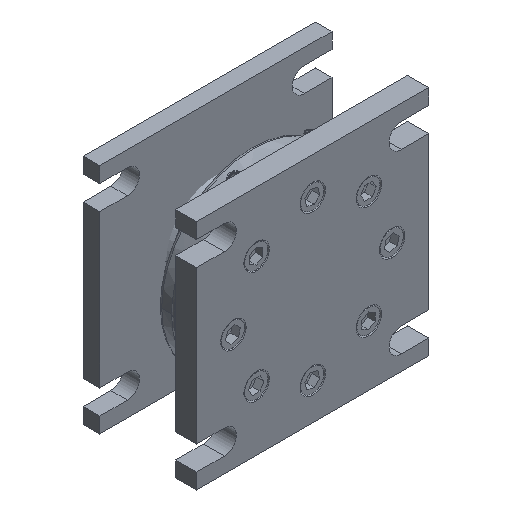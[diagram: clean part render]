
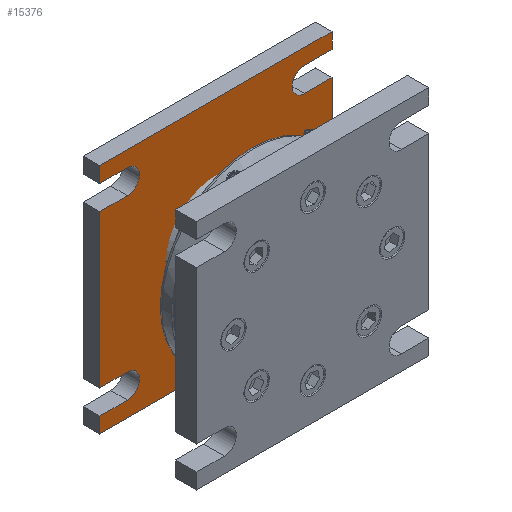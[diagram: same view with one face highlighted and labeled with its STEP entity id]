
A CAD part, isometric view. The second image highlights one B-rep face of the part: STEP entity #15376.
In plain terms, the highlighted planar face has unit normal (0, -1, 0).
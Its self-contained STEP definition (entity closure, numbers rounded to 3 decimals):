
#14863=CARTESIAN_POINT('',(0.,68.6,0.));
#14864=DIRECTION('',(0.,-1.,0.));
#14865=DIRECTION('',(1.,0.,0.));
#14866=AXIS2_PLACEMENT_3D('',#14863,#14864,#14865);
#14868=CARTESIAN_POINT('',(0.,68.6,0.));
#14869=DIRECTION('',(0.,-1.,0.));
#14870=DIRECTION('',(-1.,0.,0.));
#14871=AXIS2_PLACEMENT_3D('',#14868,#14869,#14870);
#14873=DIRECTION('',(1.,0.,0.));
#14874=VECTOR('',#14873,25.);
#14875=CARTESIAN_POINT('',(-105.,68.6,-91.));
#14876=LINE('',#14875,#14874);
#14877=DIRECTION('',(1.,0.,0.));
#14878=VECTOR('',#14877,25.);
#14879=CARTESIAN_POINT('',(-105.,68.6,-69.));
#14880=LINE('',#14879,#14878);
#14881=DIRECTION('',(0.,0.,1.));
#14882=VECTOR('',#14881,138.);
#14883=CARTESIAN_POINT('',(-105.,68.6,-69.));
#14884=LINE('',#14883,#14882);
#14885=DIRECTION('',(1.,0.,0.));
#14886=VECTOR('',#14885,25.);
#14887=CARTESIAN_POINT('',(-105.,68.6,69.));
#14888=LINE('',#14887,#14886);
#14889=DIRECTION('',(1.,0.,0.));
#14890=VECTOR('',#14889,25.);
#14891=CARTESIAN_POINT('',(-105.,68.6,91.));
#14892=LINE('',#14891,#14890);
#14893=DIRECTION('',(0.,0.,1.));
#14894=VECTOR('',#14893,14.);
#14895=CARTESIAN_POINT('',(-105.,68.6,91.));
#14896=LINE('',#14895,#14894);
#14897=DIRECTION('',(1.,0.,0.));
#14898=VECTOR('',#14897,210.);
#14899=CARTESIAN_POINT('',(-105.,68.6,105.));
#14900=LINE('',#14899,#14898);
#14901=DIRECTION('',(0.,0.,-1.));
#14902=VECTOR('',#14901,14.);
#14903=CARTESIAN_POINT('',(105.,68.6,105.));
#14904=LINE('',#14903,#14902);
#14905=DIRECTION('',(-1.,0.,0.));
#14906=VECTOR('',#14905,25.);
#14907=CARTESIAN_POINT('',(105.,68.6,91.));
#14908=LINE('',#14907,#14906);
#14909=DIRECTION('',(-1.,0.,0.));
#14910=VECTOR('',#14909,25.);
#14911=CARTESIAN_POINT('',(105.,68.6,69.));
#14912=LINE('',#14911,#14910);
#14913=DIRECTION('',(0.,0.,-1.));
#14914=VECTOR('',#14913,138.);
#14915=CARTESIAN_POINT('',(105.,68.6,69.));
#14916=LINE('',#14915,#14914);
#14917=DIRECTION('',(-1.,0.,0.));
#14918=VECTOR('',#14917,25.);
#14919=CARTESIAN_POINT('',(105.,68.6,-69.));
#14920=LINE('',#14919,#14918);
#14921=DIRECTION('',(-1.,0.,0.));
#14922=VECTOR('',#14921,25.);
#14923=CARTESIAN_POINT('',(105.,68.6,-91.));
#14924=LINE('',#14923,#14922);
#14925=DIRECTION('',(0.,0.,-1.));
#14926=VECTOR('',#14925,14.);
#14927=CARTESIAN_POINT('',(105.,68.6,-91.));
#14928=LINE('',#14927,#14926);
#14929=DIRECTION('',(-1.,0.,0.));
#14930=VECTOR('',#14929,210.);
#14931=CARTESIAN_POINT('',(105.,68.6,-105.));
#14932=LINE('',#14931,#14930);
#14933=DIRECTION('',(0.,0.,1.));
#14934=VECTOR('',#14933,14.);
#14935=CARTESIAN_POINT('',(-105.,68.6,-105.));
#14936=LINE('',#14935,#14934);
#15064=CARTESIAN_POINT('',(80.,68.6,-80.));
#15065=DIRECTION('',(0.,1.,0.));
#15066=DIRECTION('',(0.,0.,-1.));
#15067=AXIS2_PLACEMENT_3D('',#15064,#15065,#15066);
#15082=CARTESIAN_POINT('',(80.,68.6,80.));
#15083=DIRECTION('',(0.,1.,0.));
#15084=DIRECTION('',(0.,0.,-1.));
#15085=AXIS2_PLACEMENT_3D('',#15082,#15083,#15084);
#15095=CARTESIAN_POINT('',(-80.,68.6,80.));
#15096=DIRECTION('',(0.,1.,0.));
#15097=DIRECTION('',(0.,0.,1.));
#15098=AXIS2_PLACEMENT_3D('',#15095,#15096,#15097);
#15113=CARTESIAN_POINT('',(-80.,68.6,-80.));
#15114=DIRECTION('',(0.,1.,0.));
#15115=DIRECTION('',(0.,0.,1.));
#15116=AXIS2_PLACEMENT_3D('',#15113,#15114,#15115);
#15215=CARTESIAN_POINT('',(-105.,68.6,105.));
#15216=CARTESIAN_POINT('',(105.,68.6,105.));
#15217=VERTEX_POINT('',#15215);
#15218=VERTEX_POINT('',#15216);
#15219=CARTESIAN_POINT('',(105.,68.6,-105.));
#15220=CARTESIAN_POINT('',(-105.,68.6,-105.));
#15221=VERTEX_POINT('',#15219);
#15222=VERTEX_POINT('',#15220);
#15231=CARTESIAN_POINT('',(17.5,68.6,0.));
#15232=CARTESIAN_POINT('',(-17.5,68.6,0.));
#15233=VERTEX_POINT('',#15231);
#15234=VERTEX_POINT('',#15232);
#15235=CARTESIAN_POINT('',(-105.,68.6,-91.));
#15236=CARTESIAN_POINT('',(-80.,68.6,-91.));
#15237=VERTEX_POINT('',#15235);
#15238=VERTEX_POINT('',#15236);
#15239=CARTESIAN_POINT('',(-105.,68.6,-69.));
#15240=CARTESIAN_POINT('',(-80.,68.6,-69.));
#15241=VERTEX_POINT('',#15239);
#15242=VERTEX_POINT('',#15240);
#15243=CARTESIAN_POINT('',(105.,68.6,-69.));
#15244=CARTESIAN_POINT('',(80.,68.6,-69.));
#15245=VERTEX_POINT('',#15243);
#15246=VERTEX_POINT('',#15244);
#15247=CARTESIAN_POINT('',(105.,68.6,-91.));
#15248=CARTESIAN_POINT('',(80.,68.6,-91.));
#15249=VERTEX_POINT('',#15247);
#15250=VERTEX_POINT('',#15248);
#15251=CARTESIAN_POINT('',(105.,68.6,91.));
#15252=CARTESIAN_POINT('',(80.,68.6,91.));
#15253=VERTEX_POINT('',#15251);
#15254=VERTEX_POINT('',#15252);
#15255=CARTESIAN_POINT('',(105.,68.6,69.));
#15256=CARTESIAN_POINT('',(80.,68.6,69.));
#15257=VERTEX_POINT('',#15255);
#15258=VERTEX_POINT('',#15256);
#15259=CARTESIAN_POINT('',(-105.,68.6,69.));
#15260=CARTESIAN_POINT('',(-80.,68.6,69.));
#15261=VERTEX_POINT('',#15259);
#15262=VERTEX_POINT('',#15260);
#15263=CARTESIAN_POINT('',(-105.,68.6,91.));
#15264=CARTESIAN_POINT('',(-80.,68.6,91.));
#15265=VERTEX_POINT('',#15263);
#15266=VERTEX_POINT('',#15264);
#15323=CARTESIAN_POINT('',(0.,68.6,0.));
#15324=DIRECTION('',(0.,1.,0.));
#15325=DIRECTION('',(1.,0.,0.));
#15326=AXIS2_PLACEMENT_3D('',#15323,#15324,#15325);
#15327=PLANE('',#15326);
#15329=ORIENTED_EDGE('',*,*,#15328,.T.);
#15331=ORIENTED_EDGE('',*,*,#15330,.F.);
#15333=ORIENTED_EDGE('',*,*,#15332,.F.);
#15335=ORIENTED_EDGE('',*,*,#15334,.T.);
#15337=ORIENTED_EDGE('',*,*,#15336,.T.);
#15339=ORIENTED_EDGE('',*,*,#15338,.F.);
#15341=ORIENTED_EDGE('',*,*,#15340,.F.);
#15343=ORIENTED_EDGE('',*,*,#15342,.T.);
#15345=ORIENTED_EDGE('',*,*,#15344,.T.);
#15347=ORIENTED_EDGE('',*,*,#15346,.T.);
#15349=ORIENTED_EDGE('',*,*,#15348,.T.);
#15351=ORIENTED_EDGE('',*,*,#15350,.F.);
#15353=ORIENTED_EDGE('',*,*,#15352,.F.);
#15355=ORIENTED_EDGE('',*,*,#15354,.T.);
#15357=ORIENTED_EDGE('',*,*,#15356,.T.);
#15359=ORIENTED_EDGE('',*,*,#15358,.F.);
#15361=ORIENTED_EDGE('',*,*,#15360,.F.);
#15363=ORIENTED_EDGE('',*,*,#15362,.T.);
#15365=ORIENTED_EDGE('',*,*,#15364,.T.);
#15367=ORIENTED_EDGE('',*,*,#15366,.T.);
#15368=EDGE_LOOP('',(#15329,#15331,#15333,#15335,#15337,#15339,#15341,#15343,
#15345,#15347,#15349,#15351,#15353,#15355,#15357,#15359,#15361,#15363,#15365,
#15367));
#15369=FACE_OUTER_BOUND('',#15368,.F.);
#15371=ORIENTED_EDGE('',*,*,#15370,.T.);
#15373=ORIENTED_EDGE('',*,*,#15372,.T.);
#15374=EDGE_LOOP('',(#15371,#15373));
#15375=FACE_BOUND('',#15374,.F.);
#15376=ADVANCED_FACE('',(#15369,#15375),#15327,.F.);
#14867=CIRCLE('',#14866,17.5);
#14872=CIRCLE('',#14871,17.5);
#15068=CIRCLE('',#15067,11.);
#15086=CIRCLE('',#15085,11.);
#15099=CIRCLE('',#15098,11.);
#15117=CIRCLE('',#15116,11.);
#15328=EDGE_CURVE('',#15237,#15238,#14876,.T.);
#15330=EDGE_CURVE('',#15242,#15238,#15117,.T.);
#15332=EDGE_CURVE('',#15241,#15242,#14880,.T.);
#15334=EDGE_CURVE('',#15241,#15261,#14884,.T.);
#15336=EDGE_CURVE('',#15261,#15262,#14888,.T.);
#15338=EDGE_CURVE('',#15266,#15262,#15099,.T.);
#15340=EDGE_CURVE('',#15265,#15266,#14892,.T.);
#15342=EDGE_CURVE('',#15265,#15217,#14896,.T.);
#15344=EDGE_CURVE('',#15217,#15218,#14900,.T.);
#15346=EDGE_CURVE('',#15218,#15253,#14904,.T.);
#15348=EDGE_CURVE('',#15253,#15254,#14908,.T.);
#15350=EDGE_CURVE('',#15258,#15254,#15086,.T.);
#15352=EDGE_CURVE('',#15257,#15258,#14912,.T.);
#15354=EDGE_CURVE('',#15257,#15245,#14916,.T.);
#15356=EDGE_CURVE('',#15245,#15246,#14920,.T.);
#15358=EDGE_CURVE('',#15250,#15246,#15068,.T.);
#15360=EDGE_CURVE('',#15249,#15250,#14924,.T.);
#15362=EDGE_CURVE('',#15249,#15221,#14928,.T.);
#15364=EDGE_CURVE('',#15221,#15222,#14932,.T.);
#15366=EDGE_CURVE('',#15222,#15237,#14936,.T.);
#15370=EDGE_CURVE('',#15233,#15234,#14867,.T.);
#15372=EDGE_CURVE('',#15234,#15233,#14872,.T.);
